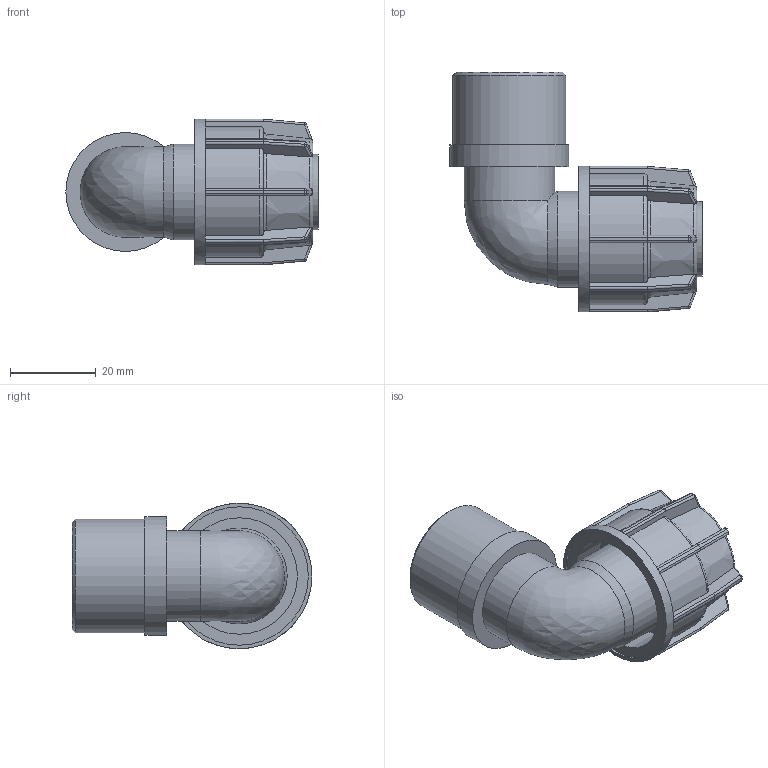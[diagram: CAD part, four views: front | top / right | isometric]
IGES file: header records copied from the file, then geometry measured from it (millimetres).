
Global section: file name: 048507016007.ipt; native system: Autodesk Inventor 2015; preprocessor: unknown; author: KIM; date: 20180409.130700; units: millimetre
Bounding box: 58.88 x 56 x 34 mm (x, y, z)
Volume: 21767.5 mm3; surface area: 14749 mm2
Topology: 1 solids, 1 shells, 275 faces, 658 edges, 382 vertices
Faces by surface type: plane 130, cylinder 78, sphere 32, revolution 24, cone 10, bspline 1
Full cylindrical faces by diameter (mm): 17.6 x1, 21.153 x1, 22.4 x1, 26.441 x1, 27.763 x1, 34 x1
